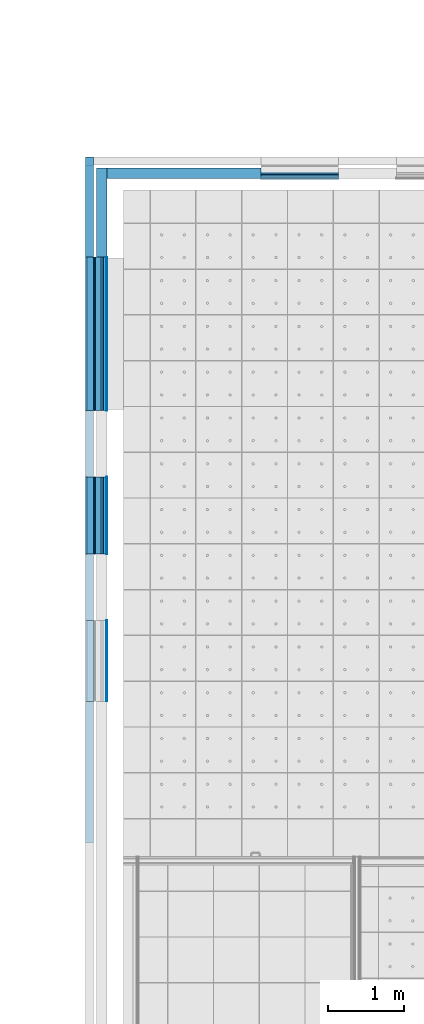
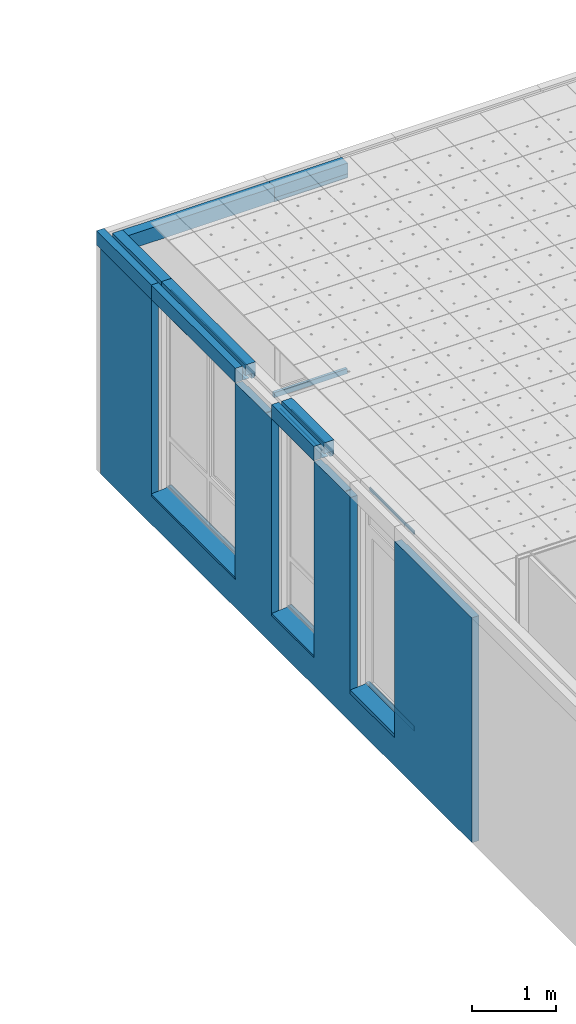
# One storey, part 76 of 338: 29 building element parts, 3 openings, 11 elements without a shape of their own.
"""IFC2X3 building model written with IfcOpenShell, lengths in millimetres."""

from ifc_helpers import new_model, entity, si_unit, converted_unit, derived_unit, money_unit, direction, frame, origin_with_axes, place, context, subcontext, project, spatial, faceted_brep, material, type_object, element, aggregate, save


model = new_model("IFC2X3")

# Units and contexts
model_context = context("Model", 3, precision=0.01, world=origin_with_axes(), true_north=direction((0.0, 1.0)))
plan_context = context("Plan", 3, precision=0.01, world=origin_with_axes(), true_north=direction((0.0, 1.0)))
body_context = subcontext(model_context, "Body", "Model", "MODEL_VIEW")
ifc_project = project(units=[si_unit("LENGTHUNIT", "METRE", prefix="MILLI"), si_unit("AREAUNIT", "SQUARE_METRE"), si_unit("VOLUMEUNIT", "CUBIC_METRE"), converted_unit("PLANEANGLEUNIT", "DEGREE", entity("IfcPlaneAngleMeasure", 0.0174532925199), si_unit("PLANEANGLEUNIT", "RADIAN"), dimensions=[0, 0, 0, 0, 0, 0, 0]), money_unit("EUR"), converted_unit("TIMEUNIT", "Year", entity("IfcTimeMeasure", 31556926.0), si_unit("TIMEUNIT", "SECOND"), dimensions=[0, 0, 1, 0, 0, 0, 0]), si_unit("MASSUNIT", "GRAM", prefix="KILO"), si_unit("THERMODYNAMICTEMPERATUREUNIT", "DEGREE_CELSIUS"), si_unit("LUMINOUSINTENSITYUNIT", "LUMEN"), si_unit("ENERGYUNIT", "JOULE", prefix="MEGA"), derived_unit("THERMALCONDUCTANCEUNIT", [(si_unit("POWERUNIT", "WATT"), 1), (si_unit("LENGTHUNIT", "METRE"), -1), (si_unit("THERMODYNAMICTEMPERATUREUNIT", "KELVIN"), -1)]), derived_unit("SPECIFICHEATCAPACITYUNIT", [(si_unit("ENERGYUNIT", "JOULE"), 1), (si_unit("MASSUNIT", "GRAM", prefix="KILO"), -1), (si_unit("THERMODYNAMICTEMPERATUREUNIT", "KELVIN"), -1)]), derived_unit("MASSDENSITYUNIT", [(si_unit("MASSUNIT", "GRAM", prefix="KILO"), 1), (si_unit("VOLUMEUNIT", "CUBIC_METRE"), -1)])], contexts=[model_context, plan_context])

# Site, building, storey
site_placement = place(None, origin_with_axes())
site = spatial("IfcSite", under=ifc_project, at=site_placement, Name="Fortuinstraat Woensdrecht", CompositionType="ELEMENT")
building_placement = place(site_placement, origin_with_axes())
building = spatial("IfcBuilding", under=site, at=building_placement, Name="IKC Fortuna", CompositionType="ELEMENT")
storey_placement = place(building_placement, origin_with_axes())
storey = spatial("IfcBuildingStorey", under=building, at=storey_placement, Name="00 begane grond", CompositionType="ELEMENT", Elevation=0.0)

# Wall, openings, building element part
wall_type = type_object("IfcWallType", Name="21 MW accent 280", PredefinedType="NOTDEFINED")
wall_placement = place(storey_placement, frame((13595.4349765, 26791.5057441, -485.0), z_axis=(0.0, 0.0, 1.0), x_axis=(0.0, 1.0, 0.0)))
wall = element("IfcWall", 1, at=wall_placement, inside=storey, type_object=wall_type, Name="21_Wand_Baksteen")
opening_1_placement = place(wall_placement, frame((6669.79086492, 0.0, 469.0), z_axis=(0.0, 0.0, 1.0), x_axis=(1.0, 0.0, 0.0)))
element("IfcOpeningElement", 2, at=opening_1_placement, cuts=wall, Name="31_Raam_A.01b", context=body_context, shape_type="Brep", body=[
    faceted_brep([(1005.0, 72.0, 2816.0), (1005.0, 72.0, -59.0), (1005.0, 560.0, -59.0), (1005.0, 560.0, 2816.0), (-1005.0, 72.0, 2816.0), (-1005.0, 72.0, -59.0), (-1005.0, 560.0, -59.0), (-1005.0, 560.0, 2816.0)], [[[0, 1, 2, 3]], [[0, 4, 5, 1]], [[1, 5, 6, 2]], [[3, 2, 6, 7]], [[4, 0, 3, 7]], [[5, 4, 7, 6]]]),
    faceted_brep([(1005.0, 72.0, -59.0), (1005.0, 72.0, 2816.0), (1005.0, -280.0, 2816.0), (1005.0, -280.0, -59.0), (-1005.0, 72.0, -59.0), (-1005.0, 72.0, 2816.0), (-1005.0, -280.0, 2816.0), (-1005.0, -280.0, -59.0)], [[[0, 1, 2, 3]], [[0, 4, 5, 1]], [[1, 5, 6, 2]], [[3, 2, 6, 7]], [[4, 0, 3, 7]], [[5, 4, 7, 6]]]),
])
opening_2_placement = place(wall_placement, frame((4289.79084431, 0.0, 469.0), z_axis=(0.0, 0.0, 1.0), x_axis=(1.0, 0.0, 0.0)))
element("IfcOpeningElement", 3, at=opening_2_placement, cuts=wall, Name="31_Raam_A.03a", context=body_context, shape_type="Brep", body=[
    faceted_brep([(505.0, 72.0, 2816.0), (505.0, 72.0, -59.0), (505.0, 560.0, -59.0), (505.0, 560.0, 2816.0), (-505.0, 72.0, 2816.0), (-505.0, 72.0, -59.0), (-505.0, 560.0, -59.0), (-505.0, 560.0, 2816.0)], [[[0, 1, 2, 3]], [[0, 4, 5, 1]], [[1, 5, 6, 2]], [[3, 2, 6, 7]], [[4, 0, 3, 7]], [[5, 4, 7, 6]]]),
    faceted_brep([(505.0, 72.0, -59.0), (505.0, 72.0, 2816.0), (505.0, -280.0, 2816.0), (505.0, -280.0, -59.0), (-505.0, 72.0, -59.0), (-505.0, 72.0, 2816.0), (-505.0, -280.0, 2816.0), (-505.0, -280.0, -59.0)], [[[0, 1, 2, 3]], [[0, 4, 5, 1]], [[1, 5, 6, 2]], [[3, 2, 6, 7]], [[4, 0, 3, 7]], [[5, 4, 7, 6]]]),
])
opening_3_placement = place(wall_placement, frame((2383.79084431, 0.0, 485.0), z_axis=(0.0, 0.0, 1.0), x_axis=(1.0, 0.0, 0.0)))
element("IfcOpeningElement", 4, at=opening_3_placement, cuts=wall, Name="31_Deur_A.04", context=body_context, shape_type="Brep", body=[
    faceted_brep([(-531.0, 560.0, 2800.0), (-531.0, 560.0, -75.0), (-531.0, 72.0, -75.0), (-531.0, 72.0, 2800.0), (531.0, 560.0, 2800.0), (531.0, 560.0, -75.0), (531.0, 72.0, -75.0), (531.0, 72.0, 2800.0)], [[[0, 1, 2, 3]], [[0, 4, 5, 1]], [[1, 5, 6, 2]], [[3, 2, 6, 7]], [[4, 0, 3, 7]], [[5, 4, 7, 6]]]),
    faceted_brep([(-531.0, -280.0, -75.0), (-531.0, -280.0, 2800.0), (-531.0, 72.0, 2800.0), (-531.0, 72.0, -75.0), (531.0, -280.0, -75.0), (531.0, -280.0, 2800.0), (531.0, 72.0, 2800.0), (531.0, 72.0, -75.0)], [[[0, 1, 2, 3]], [[0, 4, 5, 1]], [[1, 5, 6, 2]], [[3, 2, 6, 7]], [[4, 0, 3, 7]], [[5, 4, 7, 6]]]),
])
ifc_material_1 = material(Name="Steen - Baksteen Accent")
building_element_part_1_placement = place(wall_placement, origin_with_axes())
building_element_part_1 = element("IfcBuildingElementPart", 5, at=building_element_part_1_placement, material=ifc_material_1, Name="Steen - Baksteen Accent", context=body_context, shape_type="Brep", body=[
    faceted_brep([(2914.79084431, 270.000000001, 3275.0), (2914.79084431, 180.0, 3275.0), (3052.96862327, 180.0, 3275.0), (3052.96862327, 270.000000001, 3275.0), (2914.79084431, 180.0, 410.0), (2914.79084431, 270.000000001, 3279.0), (2914.79084431, 268.242640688, 3283.24264069), (2914.79084431, 264.000000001, 3285.0), (2914.79084431, 280.0, 3285.0), (2914.79084431, 280.0, 410.0), (1852.79084431, 180.0, 410.0), (1852.79084431, 180.0, 3275.0), (1714.96862327, 180.0, 3275.0), (1714.96862327, 180.0, 3285.0), (0.0, 180.0, 3285.0), (0.0, 180.0, 0.0), (8884.7908842, 180.0, 0.0), (8884.7908842, 180.0, 3285.0), (7812.7908842, 180.0, 3285.0), (7812.7908842, 180.0, 3275.0), (7674.79086492, 180.0, 3275.0), (7674.79086492, 180.0, 410.0), (5664.79086492, 180.0, 410.0), (5664.79086492, 180.0, 3275.0), (5526.7908842, 180.0, 3275.0), (5526.7908842, 180.0, 3285.0), (4945.03685136, 180.0, 3285.0), (4945.03685136, 180.0, 3275.0), (4794.79084431, 180.0, 3275.0), (4794.79084431, 180.0, 410.0), (3784.79084431, 180.0, 410.0), (3784.79084431, 180.0, 3275.0), (3646.96862327, 180.0, 3275.0), (3646.96862327, 180.0, 3285.0), (3052.96862327, 180.0, 3285.0), (3052.96862327, 270.000000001, 3279.0), (3052.96862327, 192.000000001, 3285.0), (3052.96862327, 264.000000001, 3285.0), (3052.96862327, 268.242640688, 3283.24264069), (3646.96862327, 192.000000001, 3285.0), (3646.96862327, 264.000000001, 3285.0), (3784.79084431, 264.000000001, 3285.0), (3784.79084431, 280.0, 3285.0), (3784.79084431, 280.0, 410.0), (4794.79084431, 280.0, 410.0), (4794.79084431, 280.0, 3285.0), (5664.79086492, 280.0, 3285.0), (5664.79086492, 280.0, 410.0), (7674.79086492, 280.0, 410.0), (7674.79086492, 280.0, 3285.0), (8884.7908842, 280.0, 3285.0), (8884.7908842, 280.0, 0.0), (0.0, 280.0, 0.0), (0.0, 280.0, 3285.0), (1852.79084431, 280.0, 3285.0), (1852.79084431, 280.0, 410.0), (1852.79084431, 270.000000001, 3275.0), (1852.79084431, 264.000000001, 3285.0), (1852.79084431, 268.242640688, 3283.24264069), (1852.79084431, 270.000000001, 3279.0), (1714.96862327, 270.000000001, 3275.0), (1714.96862327, 268.242640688, 3283.24264069), (1714.96862327, 264.000000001, 3285.0), (1714.96862327, 192.000000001, 3285.0), (1714.96862327, 270.000000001, 3279.0), (7674.79086492, 264.000000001, 3285.0), (7812.7908842, 264.000000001, 3285.0), (7812.7908842, 192.000000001, 3285.0), (7812.7908842, 270.000000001, 3279.0), (7812.7908842, 270.000000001, 3275.0), (7812.7908842, 268.242640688, 3283.24264069), (7674.79086492, 270.000000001, 3275.0), (7674.79086492, 270.000000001, 3279.0), (7674.79086492, 268.242640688, 3283.24264069), (5664.79086492, 264.000000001, 3285.0), (5664.79086492, 268.242640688, 3283.24264069), (5664.79086492, 270.000000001, 3279.0), (5664.79086492, 270.000000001, 3275.0), (5526.7908842, 270.000000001, 3275.0), (5526.7908842, 268.242640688, 3283.24264069), (5526.7908842, 264.000000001, 3285.0), (5526.7908842, 192.000000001, 3285.0), (5526.7908842, 270.000000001, 3279.0), (4794.79084431, 264.000000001, 3285.0), (4945.03685136, 264.000000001, 3285.0), (4945.03685136, 192.000000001, 3285.0), (4945.03685136, 270.000000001, 3279.0), (4945.03685136, 270.000000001, 3275.0), (4945.03685136, 268.242640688, 3283.24264069), (4794.79084431, 270.000000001, 3275.0), (4794.79084431, 270.000000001, 3279.0), (4794.79084431, 268.242640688, 3283.24264069), (3784.79084431, 268.242640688, 3283.24264069), (3784.79084431, 270.000000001, 3279.0), (3784.79084431, 270.000000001, 3275.0), (3646.96862327, 270.000000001, 3275.0), (3646.96862327, 268.242640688, 3283.24264069), (3646.96862327, 270.000000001, 3279.0)], [[[0, 1, 2, 3]], [[4, 1, 0, 5, 6, 7, 8, 9]], [[10, 11, 12, 13, 14, 15, 16, 17, 18, 19, 20, 21, 22, 23, 24, 25, 26, 27, 28, 29, 30, 31, 32, 33, 34, 2, 1, 4]], [[35, 3, 2, 34, 36, 37, 38]], [[5, 0, 3, 35]], [[6, 5, 35, 38]], [[7, 6, 38, 37]], [[8, 7, 37, 36, 34, 33, 39, 40, 41, 42]], [[9, 8, 42, 43, 44, 45, 46, 47, 48, 49, 50, 51, 52, 53, 54, 55]], [[10, 4, 9, 55]], [[56, 11, 10, 55, 54, 57, 58, 59]], [[11, 56, 60, 12]], [[61, 62, 63, 13, 12, 60, 64]], [[57, 54, 53, 14, 13, 63, 62]], [[53, 52, 15, 14]], [[15, 52, 51, 16]], [[16, 51, 50, 17]], [[65, 66, 67, 18, 17, 50, 49]], [[68, 69, 19, 18, 67, 66, 70]], [[19, 69, 71, 20]], [[71, 72, 73, 65, 49, 48, 21, 20]], [[48, 47, 22, 21]], [[22, 47, 46, 74, 75, 76, 77, 23]], [[78, 24, 23, 77]], [[79, 80, 81, 25, 24, 78, 82]], [[80, 74, 46, 45, 83, 84, 85, 26, 25, 81]], [[86, 87, 27, 26, 85, 84, 88]], [[28, 27, 87, 89]], [[83, 45, 44, 29, 28, 89, 90, 91]], [[29, 44, 43, 30]], [[41, 92, 93, 94, 31, 30, 43, 42]], [[94, 95, 32, 31]], [[96, 40, 39, 33, 32, 95, 97]], [[41, 40, 96, 92]], [[58, 57, 62, 61]], [[59, 58, 61, 64]], [[56, 59, 64, 60]], [[70, 66, 65, 73]], [[69, 68, 72, 71]], [[68, 70, 73, 72]], [[80, 79, 75, 74]], [[79, 82, 76, 75]], [[82, 78, 77, 76]], [[91, 88, 84, 83]], [[89, 87, 86, 90]], [[90, 86, 88, 91]], [[92, 96, 97, 93]], [[93, 97, 95, 94]]]),
])
aggregate(wall, [building_element_part_1])

# Covering, building element parts
covering_type_1 = type_object("IfcCoveringType", Name="41 Latei MW rollaag 280 x 227", PredefinedType="NOTDEFINED")
covering_1_placement = place(storey_placement, frame((13455.4349765, 32456.296609, 2800.0), z_axis=(0.0, 0.0, 1.0), x_axis=(0.0, 1.0, 0.0)))
covering_1 = element("IfcCovering", 6, at=covering_1_placement, inside=storey, type_object=covering_type_1, Name="41_Afwerking_Latei + rollaag", PredefinedType="NOTDEFINED")
ifc_material_2 = material(Name="Metaal - Staal C")
building_element_part_2_placement = place(covering_1_placement, origin_with_axes())
building_element_part_2 = element("IfcBuildingElementPart", 7, at=building_element_part_2_placement, material=ifc_material_2, Name="Metaal - Staal C", context=body_context, shape_type="Brep", body=[
    faceted_brep([(0.0, 128.589936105, -2.59580461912), (2010.0, 128.589936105, -2.59580461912), (2010.0, 136.0, -4.07767729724), (0.0, 136.0, -4.07767729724), (2010.0, 130.000000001, -6.00000000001), (0.0, 130.000000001, -6.00000000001), (2010.0, 130.000000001, -6.95689290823), (2010.0, 135.215535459, -8.0), (0.0, 135.215535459, -8.0), (0.0, 130.000000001, -6.95689290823)], [[[0, 1, 2, 3]], [[4, 1, 0, 5]], [[4, 6, 7, 2, 1]], [[3, 2, 7, 8]], [[5, 0, 3, 8, 9]], [[6, 4, 5, 9]], [[6, 9, 8, 7]]]),
    faceted_brep([(2010.0, 30.0000000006, 106.999999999), (2010.0, 30.0000000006, 112.580611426), (2010.0, 20.8284271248, 121.828427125), (2010.0, 18.0000000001, 119.0), (0.0, 30.0000000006, 112.580611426), (0.0, 30.0000000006, 106.999999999), (0.0, 20.8284271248, 121.828427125), (0.0, 18.0000000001, 119.0)], [[[0, 1, 2, 3]], [[4, 1, 0, 5]], [[1, 4, 6, 2]], [[7, 3, 2, 6]], [[5, 0, 3, 7]], [[4, 5, 7, 6]]]),
])
ifc_material_3 = material(Name="Steen - Baksteen Accent Rollaag")
building_element_part_3_placement = place(covering_1_placement, origin_with_axes())
building_element_part_3 = element("IfcBuildingElementPart", 8, at=building_element_part_3_placement, material=ifc_material_3, Name="Steen - Baksteen Accent Rollaag", context=body_context, shape_type="Brep", body=[
    faceted_brep([(0.0, 40.0000000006, 12.0), (2010.0, 40.0000000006, 12.0), (2010.0, 40.0, 210.0), (0.0, 40.0, 210.0), (2010.0, 43.5147186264, 3.51471862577), (0.0, 43.5147186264, 3.51471862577), (2010.0, 52.0000000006, 0.0), (2010.0, 115.609685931, 0.0), (2010.0, 140.0, 0.0), (2010.0, 140.0, 210.0), (0.0, 140.0, 210.0), (0.0, 140.0, 0.0), (0.0, 115.609685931, 0.0), (0.0, 52.0000000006, 0.0)], [[[0, 1, 2, 3]], [[4, 1, 0, 5]], [[4, 6, 7, 8, 9, 2, 1]], [[3, 2, 9, 10]], [[5, 0, 3, 10, 11, 12, 13]], [[6, 4, 5, 13]], [[6, 13, 12, 7]], [[11, 8, 7, 12]], [[10, 9, 8, 11]]]),
])
ifc_material_4 = material(Name="Metaal - Staal AFW")
building_element_part_4_placement = place(covering_1_placement, origin_with_axes())
building_element_part_4 = element("IfcBuildingElementPart", 9, at=building_element_part_4_placement, material=ifc_material_4, Name="Metaal - Staal AFW", context=body_context, shape_type="Brep", body=[
    faceted_brep([(2010.0, 30.0000000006, 0.0), (2010.0, 30.0000000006, 4.0), (2010.0, -58.0, 4.0), (2010.0, -58.0, 0.0), (0.0, 30.0000000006, 4.0), (0.0, 30.0000000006, 0.0), (0.0, -58.0, 4.0), (0.0, -58.0, 0.0)], [[[0, 1, 2, 3]], [[4, 1, 0, 5]], [[1, 4, 6, 2]], [[7, 3, 2, 6]], [[5, 0, 3, 7]], [[4, 5, 7, 6]]]),
])
ifc_material_5 = material(Name="ALG - ISOLATIE")
building_element_part_5_placement = place(covering_1_placement, origin_with_axes())
building_element_part_5 = element("IfcBuildingElementPart", 10, at=building_element_part_5_placement, material=ifc_material_5, Name="ALG - ISOLATIE", context=body_context, shape_type="Brep", body=[
    faceted_brep([(2010.0, -140.0, 53.0), (2010.0, -140.0, 210.0), (0.0, -140.0, 210.0), (0.0, -140.0, 53.0), (2010.0, -83.9999988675, 53.0000013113), (2010.0, 0.0, 53.0), (2010.0, 0.0, 210.0), (0.0, 0.0, 210.0), (0.0, 0.0, 53.0), (0.0, -83.9999988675, 53.0000013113)], [[[0, 1, 2, 3]], [[0, 4, 5, 6, 1]], [[1, 6, 7, 2]], [[3, 2, 7, 8, 9]], [[4, 0, 3, 9]], [[5, 4, 9, 8]], [[6, 5, 8, 7]]]),
])
ifc_material_6 = material(Name="Hout AFW")
building_element_part_6_placement = place(covering_1_placement, origin_with_axes())
building_element_part_6 = element("IfcBuildingElementPart", 11, at=building_element_part_6_placement, material=ifc_material_6, Name="Hout AFW", context=body_context, shape_type="Brep", body=[
    faceted_brep([(2010.0, -127.999998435, 53.0000013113), (2010.0, -83.9999988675, 53.0000013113), (0.0, -83.9999988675, 53.0000013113), (0.0, -127.999998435, 53.0000013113), (2010.0, -127.999998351, -1.28576260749e-07), (2010.0, -127.999998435, -17.0), (2010.0, -83.9999988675, -17.0), (0.0, -83.9999988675, -17.0), (0.0, -127.999998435, -17.0), (0.0, -127.999998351, -1.28576260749e-07)], [[[0, 1, 2, 3]], [[0, 4, 5, 6, 1]], [[1, 6, 7, 2]], [[3, 2, 7, 8, 9]], [[4, 0, 3, 9]], [[5, 4, 9, 8]], [[6, 5, 8, 7]]]),
])
ifc_material_7 = material(Name="Isolatie - PUR gespoten")
building_element_part_7_placement = place(covering_1_placement, origin_with_axes())
building_element_part_7 = element("IfcBuildingElementPart", 12, at=building_element_part_7_placement, material=ifc_material_7, Name="Isolatie - PUR gespoten", context=body_context, shape_type="Brep", body=[
    faceted_brep([(2010.0, -139.999999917, 53.0000002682), (2010.0, -127.999998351, 53.0000013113), (0.0, -127.999998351, 53.0000013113), (0.0, -139.999999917, 53.0000002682), (2010.0, -139.999999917, -1.28576260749e-07), (2010.0, -127.999998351, -1.28576260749e-07), (0.0, -127.999998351, -1.28576260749e-07), (0.0, -139.999999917, -1.28576260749e-07)], [[[0, 1, 2, 3]], [[0, 4, 5, 1]], [[1, 5, 6, 2]], [[3, 2, 6, 7]], [[4, 0, 3, 7]], [[5, 4, 7, 6]]]),
])
aggregate(covering_1, [building_element_part_2, building_element_part_3, building_element_part_4, building_element_part_5, building_element_part_6, building_element_part_7])

covering_type_2 = type_object("IfcCoveringType", Name="41 Rollaag 280 x 210", PredefinedType="NOTDEFINED")
covering_2_placement = place(storey_placement, frame((13455.4349765, 34466.296609, 2800.0), z_axis=(0.0, 0.0, 1.0), x_axis=(0.0, 1.0, 0.0)))
covering_2 = element("IfcCovering", 13, at=covering_2_placement, inside=storey, type_object=covering_type_2, Name="41_Afwerking_Rollaag", PredefinedType="NOTDEFINED")
building_element_part_8_placement = place(covering_2_placement, origin_with_axes())
building_element_part_8 = element("IfcBuildingElementPart", 14, at=building_element_part_8_placement, material=ifc_material_3, Name="Steen - Baksteen Accent Rollaag", context=body_context, shape_type="Brep", body=[
    faceted_brep([(138.000019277, 40.0000000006, 12.0), (138.000019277, 40.0, 0.0), (1310.00001928, 40.0, 0.0), (1310.00001928, 40.0, 210.0), (0.0, 40.0, 210.0), (0.0, 40.0000000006, 12.0), (138.000019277, 43.5147186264, 3.51471862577), (138.000019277, 52.0000000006, 0.0), (0.0, 52.0000000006, 0.0), (0.0, 140.0, 0.0), (1310.00001928, 140.0, 0.0), (1310.00001928, 140.0, 210.0), (0.0, 140.0, 210.0), (0.0, 43.5147186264, 3.51471862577)], [[[0, 1, 2, 3, 4, 5]], [[1, 0, 6, 7]], [[7, 8, 9, 10, 2, 1]], [[10, 11, 3, 2]], [[4, 3, 11, 12]], [[13, 5, 4, 12, 9, 8]], [[0, 5, 13, 6]], [[13, 8, 7, 6]], [[12, 11, 10, 9]]]),
])
building_element_part_9_placement = place(covering_2_placement, origin_with_axes())
building_element_part_9 = element("IfcBuildingElementPart", 15, at=building_element_part_9_placement, material=ifc_material_5, Name="ALG - ISOLATIE", context=body_context, shape_type="Brep", body=[
    faceted_brep([(1170.00001928, -140.0, 0.0), (1170.00001928, -140.0, 210.0), (0.0, -140.0, 210.0), (0.0, -140.0, 0.0), (1170.00001928, 0.0, 210.0), (1170.00001928, 0.0, 0.0), (0.0, 0.0, 210.0), (0.0, 0.0, 0.0)], [[[0, 1, 2, 3]], [[4, 1, 0, 5]], [[1, 4, 6, 2]], [[2, 6, 7, 3]], [[5, 0, 3, 7]], [[4, 5, 7, 6]]]),
])
aggregate(covering_2, [building_element_part_8, building_element_part_9])

# Covering, building element part
covering_3_placement = place(storey_placement, frame((15615.4349765, 35636.2966283, 2800.0), z_axis=(0.0, 0.0, 1.0), x_axis=(-1.0, 0.0, 0.0)))
covering_3 = element("IfcCovering", 16, at=covering_3_placement, inside=storey, type_object=covering_type_2, Name="41_Afwerking_Rollaag", PredefinedType="NOTDEFINED")
building_element_part_10_placement = place(covering_3_placement, origin_with_axes())
building_element_part_10 = element("IfcBuildingElementPart", 17, at=building_element_part_10_placement, material=ifc_material_5, Name="ALG - ISOLATIE", context=body_context, shape_type="Brep", body=[
    faceted_brep([(2020.0, 0.0, 0.0), (2020.0, 0.0, 210.0), (0.0, 0.0, 210.0), (0.0, 0.0, 0.0), (2020.0, 140.0, 210.0), (2020.0, 140.0, 0.0), (0.0, 140.0, 210.0), (0.0, 140.0, 0.0)], [[[0, 1, 2, 3]], [[4, 1, 0, 5]], [[1, 4, 6, 2]], [[7, 3, 2, 6]], [[5, 0, 3, 7]], [[4, 5, 7, 6]]]),
])
aggregate(covering_3, [building_element_part_10])

covering_4_placement = place(storey_placement, frame((13455.4349765, 28644.2965884, 2800.0), z_axis=(0.0, 0.0, 1.0), x_axis=(0.0, 1.0, 0.0)))
covering_4 = element("IfcCovering", 18, at=covering_4_placement, inside=storey, type_object=covering_type_1, Name="41_Afwerking_Latei + rollaag", PredefinedType="NOTDEFINED")
building_element_part_11_placement = place(covering_4_placement, origin_with_axes())
building_element_part_11 = element("IfcBuildingElementPart", 19, at=building_element_part_11_placement, material=ifc_material_7, Name="Isolatie - PUR gespoten", context=body_context, shape_type="Brep", body=[
    faceted_brep([(1062.0, -139.999999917, 53.0000002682), (1062.0, -127.999998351, 53.0000013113), (0.0, -127.999998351, 53.0000013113), (0.0, -139.999999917, 53.0000002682), (1062.0, -139.999999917, -1.28576260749e-07), (1062.0, -127.999998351, -1.28576260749e-07), (0.0, -127.999998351, -1.28576260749e-07), (0.0, -139.999999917, -1.28576260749e-07)], [[[0, 1, 2, 3]], [[0, 4, 5, 1]], [[1, 5, 6, 2]], [[3, 2, 6, 7]], [[4, 0, 3, 7]], [[5, 4, 7, 6]]]),
])
aggregate(covering_4, [building_element_part_11])

# Covering, building element parts
covering_5_placement = place(storey_placement, frame((13455.4349765, 30576.2965884, 2800.0), z_axis=(0.0, 0.0, 1.0), x_axis=(0.0, 1.0, 0.0)))
covering_5 = element("IfcCovering", 20, at=covering_5_placement, inside=storey, type_object=covering_type_1, Name="41_Afwerking_Latei + rollaag", PredefinedType="NOTDEFINED")
building_element_part_12_placement = place(covering_5_placement, origin_with_axes())
building_element_part_12 = element("IfcBuildingElementPart", 21, at=building_element_part_12_placement, material=ifc_material_2, Name="Metaal - Staal C", context=body_context, shape_type="Brep", body=[
    faceted_brep([(0.0, 128.589936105, -2.59580461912), (1010.0, 128.589936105, -2.59580461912), (1010.0, 136.0, -4.07767729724), (0.0, 136.0, -4.07767729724), (1010.0, 130.000000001, -6.00000000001), (0.0, 130.000000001, -6.00000000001), (1010.0, 130.000000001, -6.95689290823), (1010.0, 135.215535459, -8.0), (0.0, 135.215535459, -8.0), (0.0, 130.000000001, -6.95689290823)], [[[0, 1, 2, 3]], [[4, 1, 0, 5]], [[4, 6, 7, 2, 1]], [[3, 2, 7, 8]], [[5, 0, 3, 8, 9]], [[6, 4, 5, 9]], [[6, 9, 8, 7]]]),
    faceted_brep([(1010.0, 30.0000000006, 106.999999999), (1010.0, 30.0000000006, 112.580611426), (1010.0, 20.8284271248, 121.828427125), (1010.0, 18.0000000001, 119.0), (0.0, 30.0000000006, 112.580611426), (0.0, 30.0000000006, 106.999999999), (0.0, 20.8284271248, 121.828427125), (0.0, 18.0000000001, 119.0)], [[[0, 1, 2, 3]], [[4, 1, 0, 5]], [[1, 4, 6, 2]], [[7, 3, 2, 6]], [[5, 0, 3, 7]], [[4, 5, 7, 6]]]),
])
building_element_part_13_placement = place(covering_5_placement, origin_with_axes())
building_element_part_13 = element("IfcBuildingElementPart", 22, at=building_element_part_13_placement, material=ifc_material_3, Name="Steen - Baksteen Accent Rollaag", context=body_context, shape_type="Brep", body=[
    faceted_brep([(0.0, 40.0000000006, 12.0), (1010.0, 40.0000000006, 12.0), (1010.0, 40.0, 210.0), (0.0, 40.0, 210.0), (1010.0, 43.5147186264, 3.51471862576), (0.0, 43.5147186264, 3.51471862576), (1010.0, 52.0000000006, 0.0), (1010.0, 115.609685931, 0.0), (1010.0, 140.0, 0.0), (1010.0, 140.0, 210.0), (0.0, 140.0, 210.0), (0.0, 140.0, 0.0), (0.0, 115.609685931, 0.0), (0.0, 52.0000000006, 0.0)], [[[0, 1, 2, 3]], [[4, 1, 0, 5]], [[4, 6, 7, 8, 9, 2, 1]], [[3, 2, 9, 10]], [[5, 0, 3, 10, 11, 12, 13]], [[6, 4, 5, 13]], [[6, 13, 12, 7]], [[11, 8, 7, 12]], [[10, 9, 8, 11]]]),
])
building_element_part_14_placement = place(covering_5_placement, origin_with_axes())
building_element_part_14 = element("IfcBuildingElementPart", 23, at=building_element_part_14_placement, material=ifc_material_4, Name="Metaal - Staal AFW", context=body_context, shape_type="Brep", body=[
    faceted_brep([(1010.0, 30.0000000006, 0.0), (1010.0, 30.0000000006, 4.0), (1010.0, -58.0, 4.0), (1010.0, -58.0, 0.0), (0.0, 30.0000000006, 4.0), (0.0, 30.0000000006, 0.0), (0.0, -58.0, 4.0), (0.0, -58.0, 0.0)], [[[0, 1, 2, 3]], [[4, 1, 0, 5]], [[1, 4, 6, 2]], [[7, 3, 2, 6]], [[5, 0, 3, 7]], [[4, 5, 7, 6]]]),
])
building_element_part_15_placement = place(covering_5_placement, origin_with_axes())
building_element_part_15 = element("IfcBuildingElementPart", 24, at=building_element_part_15_placement, material=ifc_material_5, Name="ALG - ISOLATIE", context=body_context, shape_type="Brep", body=[
    faceted_brep([(1010.0, -140.0, 53.0), (1010.0, -140.0, 210.0), (0.0, -140.0, 210.0), (0.0, -140.0, 53.0), (1010.0, -83.9999988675, 53.0000013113), (1010.0, 0.0, 53.0), (1010.0, 0.0, 210.0), (0.0, 0.0, 210.0), (0.0, 0.0, 53.0), (0.0, -83.9999988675, 53.0000013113)], [[[0, 1, 2, 3]], [[0, 4, 5, 6, 1]], [[1, 6, 7, 2]], [[3, 2, 7, 8, 9]], [[4, 0, 3, 9]], [[5, 4, 9, 8]], [[6, 5, 8, 7]]]),
])
building_element_part_16_placement = place(covering_5_placement, origin_with_axes())
building_element_part_16 = element("IfcBuildingElementPart", 25, at=building_element_part_16_placement, material=ifc_material_6, Name="Hout AFW", context=body_context, shape_type="Brep", body=[
    faceted_brep([(1010.0, -127.999998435, 53.0000013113), (1010.0, -83.9999988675, 53.0000013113), (0.0, -83.9999988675, 53.0000013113), (0.0, -127.999998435, 53.0000013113), (1010.0, -127.999998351, -1.28576260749e-07), (1010.0, -127.999998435, -17.0), (1010.0, -83.9999988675, -17.0), (0.0, -83.9999988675, -17.0), (0.0, -127.999998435, -17.0), (0.0, -127.999998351, -1.28576260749e-07)], [[[0, 1, 2, 3]], [[0, 4, 5, 6, 1]], [[1, 6, 7, 2]], [[3, 2, 7, 8, 9]], [[4, 0, 3, 9]], [[5, 4, 9, 8]], [[6, 5, 8, 7]]]),
])
building_element_part_17_placement = place(covering_5_placement, origin_with_axes())
building_element_part_17 = element("IfcBuildingElementPart", 26, at=building_element_part_17_placement, material=ifc_material_7, Name="Isolatie - PUR gespoten", context=body_context, shape_type="Brep", body=[
    faceted_brep([(1010.0, -139.999999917, 53.0000002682), (1010.0, -127.999998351, 53.0000013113), (0.0, -127.999998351, 53.0000013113), (0.0, -139.999999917, 53.0000002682), (1010.0, -139.999999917, -1.28576260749e-07), (1010.0, -127.999998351, -1.28576260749e-07), (0.0, -127.999998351, -1.28576260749e-07), (0.0, -139.999999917, -1.28576260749e-07)], [[[0, 1, 2, 3]], [[0, 4, 5, 1]], [[1, 5, 6, 2]], [[3, 2, 6, 7]], [[4, 0, 3, 7]], [[5, 4, 7, 6]]]),
])
aggregate(covering_5, [building_element_part_12, building_element_part_13, building_element_part_14, building_element_part_15, building_element_part_16, building_element_part_17])

covering_6_placement = place(storey_placement, frame((16625.4349765, 35636.2966296, 2800.0), z_axis=(0.0, 0.0, 1.0), x_axis=(-1.0, 0.0, 0.0)))
covering_6 = element("IfcCovering", 27, at=covering_6_placement, inside=storey, type_object=covering_type_1, Name="41_Afwerking_Latei + rollaag", PredefinedType="NOTDEFINED")
building_element_part_18_placement = place(covering_6_placement, origin_with_axes())
building_element_part_18 = element("IfcBuildingElementPart", 28, at=building_element_part_18_placement, material=ifc_material_7, Name="Isolatie - PUR gespoten", context=body_context, shape_type="Brep", body=[
    faceted_brep([(1010.0, 139.999999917, -1.28576260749e-07), (1010.0, 127.999998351, -1.28576260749e-07), (0.0, 127.999998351, -1.28576260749e-07), (0.0, 139.999999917, -1.28576260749e-07), (1010.0, 139.999999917, 53.0000002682), (1010.0, 127.999998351, 53.0000013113), (0.0, 127.999998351, 53.0000013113), (0.0, 139.999999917, 53.0000002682)], [[[0, 1, 2, 3]], [[0, 4, 5, 1]], [[1, 5, 6, 2]], [[3, 2, 6, 7]], [[4, 0, 3, 7]], [[5, 4, 7, 6]]]),
])
building_element_part_19_placement = place(covering_6_placement, origin_with_axes())
building_element_part_19 = element("IfcBuildingElementPart", 29, at=building_element_part_19_placement, material=ifc_material_6, Name="Hout AFW", context=body_context, shape_type="Brep", body=[
    faceted_brep([(1010.0, 127.999998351, -1.28576260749e-07), (1010.0, 127.999998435, -17.0), (0.0, 127.999998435, -17.0), (0.0, 127.999998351, -1.28576260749e-07), (1010.0, 127.999998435, 53.0000013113), (1010.0, 83.9999988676, 53.0000013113), (1010.0, 83.9999988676, -17.0), (0.0, 83.9999988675, -17.0), (0.0, 83.9999988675, 53.0000013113), (0.0, 127.999998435, 53.0000013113)], [[[0, 1, 2, 3]], [[0, 4, 5, 6, 1]], [[1, 6, 7, 2]], [[3, 2, 7, 8, 9]], [[4, 0, 3, 9]], [[5, 4, 9, 8]], [[6, 5, 8, 7]]]),
])
building_element_part_20_placement = place(covering_6_placement, origin_with_axes())
building_element_part_20 = element("IfcBuildingElementPart", 30, at=building_element_part_20_placement, material=ifc_material_5, Name="ALG - ISOLATIE", context=body_context, shape_type="Brep", body=[
    faceted_brep([(1010.0, 83.9999988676, 53.0000013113), (1010.0, 0.0, 53.0), (0.0, 0.0, 53.0), (0.0, 83.9999988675, 53.0000013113), (1010.0, 140.0, 53.0), (1010.0, 140.0, 210.0), (1010.0, 0.0, 210.0), (0.0, 0.0, 210.0), (0.0, 140.0, 210.0), (0.0, 140.0, 53.0)], [[[0, 1, 2, 3]], [[0, 4, 5, 6, 1]], [[1, 6, 7, 2]], [[3, 2, 7, 8, 9]], [[4, 0, 3, 9]], [[5, 4, 9, 8]], [[6, 5, 8, 7]]]),
])
aggregate(covering_6, [building_element_part_18, building_element_part_19, building_element_part_20])

# Covering, building element part
covering_type_3 = type_object("IfcCoveringType", Name="41 dorpel aan peil 280 x 75", PredefinedType="NOTDEFINED")
covering_7_placement = place(storey_placement, frame((15615.4349765, 35636.2963468, -2.5), z_axis=(0.0, 0.0, 1.0), x_axis=(1.0, 0.0, 0.0)))
covering_7 = element("IfcCovering", 31, at=covering_7_placement, inside=storey, type_object=covering_type_3, Name="41_Afwerking_Waterslag", PredefinedType="NOTDEFINED")
building_element_part_21_placement = place(covering_7_placement, origin_with_axes())
building_element_part_21 = element("IfcBuildingElementPart", 32, at=building_element_part_21_placement, material=ifc_material_6, Name="Hout AFW", context=body_context, shape_type="Brep", body=[
    faceted_brep([(1010.0, -92.0000008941, 2.49999865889), (1010.0, -92.0000008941, -72.5), (0.0, -92.0000008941, -72.5), (0.0, -92.0000008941, 2.49999865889), (1010.0, -130.0, 2.49999865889), (1010.0, -130.0, -72.5), (0.0, -130.0, -72.5), (0.0, -130.0, 2.49999865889)], [[[0, 1, 2, 3]], [[0, 4, 5, 1]], [[1, 5, 6, 2]], [[3, 2, 6, 7]], [[4, 0, 3, 7]], [[5, 4, 7, 6]]]),
])
aggregate(covering_7, [building_element_part_21])

# Covering, building element parts
covering_8_placement = place(storey_placement, frame((13455.4352551, 32456.296609, -2.5), z_axis=(0.0, 0.0, 1.0), x_axis=(0.0, 1.0, 0.0)))
covering_8 = element("IfcCovering", 33, at=covering_8_placement, inside=storey, type_object=covering_type_3, Name="41_Afwerking_Waterslag", PredefinedType="NOTDEFINED")
ifc_material_8 = material(Name="Steen - Kunststeen")
building_element_part_22_placement = place(covering_8_placement, origin_with_axes())
building_element_part_22 = element("IfcBuildingElementPart", 34, at=building_element_part_22_placement, material=ifc_material_8, Name="Steen - Kunststeen", context=body_context, shape_type="Brep", body=[
    faceted_brep([(2010.0, 140.0, -39.7722078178), (2010.0, 140.0, -72.5), (0.0, 140.0, -72.5), (0.0, 140.0, -39.7722078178), (2010.0, -82.0, -19.5865456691), (2010.0, -82.0, 2.5), (2010.0, -92.0, 2.5), (2010.0, -92.0, -72.5), (0.0, -92.0, -72.5), (0.0, -92.0, 2.5), (0.0, -82.0, 2.5), (0.0, -82.0, -19.5865456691)], [[[0, 1, 2, 3]], [[0, 4, 5, 6, 7, 1]], [[1, 7, 8, 2]], [[3, 2, 8, 9, 10, 11]], [[4, 0, 3, 11]], [[5, 4, 11, 10]], [[6, 5, 10, 9]], [[7, 6, 9, 8]]]),
])
building_element_part_23_placement = place(covering_8_placement, origin_with_axes())
building_element_part_23 = element("IfcBuildingElementPart", 35, at=building_element_part_23_placement, material=ifc_material_6, Name="Hout AFW", context=body_context, shape_type="Brep", body=[
    faceted_brep([(2010.0, -92.0000008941, 2.49999865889), (2010.0, -92.0000008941, -72.5), (0.0, -92.0000008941, -72.5), (0.0, -92.0000008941, 2.49999865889), (2010.0, -130.0, 2.49999865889), (2010.0, -130.0, -72.5), (0.0, -130.0, -72.5), (0.0, -130.0, 2.49999865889)], [[[0, 1, 2, 3]], [[0, 4, 5, 1]], [[1, 5, 6, 2]], [[3, 2, 6, 7]], [[4, 0, 3, 7]], [[5, 4, 7, 6]]]),
])
building_element_part_24_placement = place(covering_8_placement, origin_with_axes())
building_element_part_24 = element("IfcBuildingElementPart", 36, at=building_element_part_24_placement, material=ifc_material_7, Name="Isolatie - PUR gespoten", context=body_context, shape_type="Brep", body=[
    faceted_brep([(2010.0, -129.999999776, -72.5), (2010.0, -139.999999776, -72.5), (0.0, -139.999999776, -72.5), (0.0, -129.999999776, -72.5), (2010.0, -129.999999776, 2.49999888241), (2010.0, -139.999999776, 2.5), (0.0, -139.999999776, 2.5), (0.0, -129.999999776, 2.49999888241)], [[[0, 1, 2, 3]], [[0, 4, 5, 1]], [[1, 5, 6, 2]], [[3, 2, 6, 7]], [[4, 0, 3, 7]], [[5, 4, 7, 6]]]),
])
aggregate(covering_8, [building_element_part_22, building_element_part_23, building_element_part_24])

covering_9_placement = place(storey_placement, frame((13455.435258, 30576.2965884, -2.5), z_axis=(0.0, 0.0, 1.0), x_axis=(0.0, 1.0, 0.0)))
covering_9 = element("IfcCovering", 37, at=covering_9_placement, inside=storey, type_object=covering_type_3, Name="41_Afwerking_Waterslag", PredefinedType="NOTDEFINED")
building_element_part_25_placement = place(covering_9_placement, origin_with_axes())
building_element_part_25 = element("IfcBuildingElementPart", 38, at=building_element_part_25_placement, material=ifc_material_8, Name="Steen - Kunststeen", context=body_context, shape_type="Brep", body=[
    faceted_brep([(1010.0, 140.0, -39.7722078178), (1010.0, 140.0, -72.5), (0.0, 140.0, -72.5), (0.0, 140.0, -39.7722078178), (1010.0, -82.0, -19.5865456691), (1010.0, -82.0, 2.5), (1010.0, -92.0, 2.5), (1010.0, -92.0, -72.5), (0.0, -92.0, -72.5), (0.0, -92.0, 2.5), (0.0, -82.0, 2.5), (0.0, -82.0, -19.5865456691)], [[[0, 1, 2, 3]], [[0, 4, 5, 6, 7, 1]], [[1, 7, 8, 2]], [[3, 2, 8, 9, 10, 11]], [[4, 0, 3, 11]], [[5, 4, 11, 10]], [[6, 5, 10, 9]], [[7, 6, 9, 8]]]),
])
building_element_part_26_placement = place(covering_9_placement, origin_with_axes())
building_element_part_26 = element("IfcBuildingElementPart", 39, at=building_element_part_26_placement, material=ifc_material_6, Name="Hout AFW", context=body_context, shape_type="Brep", body=[
    faceted_brep([(1010.0, -92.0000008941, 2.49999865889), (1010.0, -92.0000008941, -72.5), (0.0, -92.0000008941, -72.5), (0.0, -92.0000008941, 2.49999865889), (1010.0, -130.0, 2.49999865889), (1010.0, -130.0, -72.5), (0.0, -130.0, -72.5), (0.0, -130.0, 2.49999865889)], [[[0, 1, 2, 3]], [[0, 4, 5, 1]], [[1, 5, 6, 2]], [[3, 2, 6, 7]], [[4, 0, 3, 7]], [[5, 4, 7, 6]]]),
])
building_element_part_27_placement = place(covering_9_placement, origin_with_axes())
building_element_part_27 = element("IfcBuildingElementPart", 40, at=building_element_part_27_placement, material=ifc_material_7, Name="Isolatie - PUR gespoten", context=body_context, shape_type="Brep", body=[
    faceted_brep([(1010.0, -129.999999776, -72.5), (1010.0, -139.999999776, -72.5), (0.0, -139.999999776, -72.5), (0.0, -129.999999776, -72.5), (1010.0, -129.999999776, 2.49999888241), (1010.0, -139.999999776, 2.5), (0.0, -139.999999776, 2.5), (0.0, -129.999999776, 2.49999888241)], [[[0, 1, 2, 3]], [[0, 4, 5, 1]], [[1, 5, 6, 2]], [[3, 2, 6, 7]], [[4, 0, 3, 7]], [[5, 4, 7, 6]]]),
])
aggregate(covering_9, [building_element_part_25, building_element_part_26, building_element_part_27])

covering_type_4 = type_object("IfcCoveringType", Name="41 dorpel d bi 280 x 95", PredefinedType="NOTDEFINED")
covering_10_placement = place(storey_placement, frame((13455.435258, 28644.2965884, -2.5), z_axis=(0.0, 0.0, 1.0), x_axis=(0.0, 1.0, 0.0)))
covering_10 = element("IfcCovering", 41, at=covering_10_placement, inside=storey, type_object=covering_type_4, Name="41_Afwerking_Waterslag", PredefinedType="NOTDEFINED")
building_element_part_28_placement = place(covering_10_placement, origin_with_axes())
building_element_part_28 = element("IfcBuildingElementPart", 42, at=building_element_part_28_placement, material=ifc_material_8, Name="Steen - Kunststeen", context=body_context, shape_type="Brep", body=[
    faceted_brep([(1062.0, 140.0, -17.1401037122), (1062.0, 140.0, -72.5), (0.0, 140.0, -72.5), (0.0, 140.0, -17.1401037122), (1062.0, -76.0, 2.5), (1062.0, -76.0, 22.5), (1062.0, -130.0, 22.5), (1062.0, -129.999999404, 2.49999821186), (1062.0, -130.0, -72.5), (0.0, -130.0, -72.5), (0.0, -129.999999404, 2.49999821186), (0.0, -130.0, 22.5), (0.0, -76.0, 22.5), (0.0, -76.0, 2.5)], [[[0, 1, 2, 3]], [[0, 4, 5, 6, 7, 8, 1]], [[1, 8, 9, 2]], [[3, 2, 9, 10, 11, 12, 13]], [[4, 0, 3, 13]], [[5, 4, 13, 12]], [[6, 5, 12, 11]], [[7, 6, 11, 10]], [[8, 7, 10, 9]]]),
])
building_element_part_29_placement = place(covering_10_placement, origin_with_axes())
building_element_part_29 = element("IfcBuildingElementPart", 43, at=building_element_part_29_placement, material=ifc_material_7, Name="Isolatie - PUR gespoten", context=body_context, shape_type="Brep", body=[
    faceted_brep([(1062.0, -140.0, 2.49999821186), (1062.0, -129.999999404, 2.49999821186), (0.0, -129.999999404, 2.49999821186), (0.0, -140.0, 2.49999821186), (1062.0, -140.0, -72.5), (1062.0, -129.999999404, -72.5), (0.0, -129.999999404, -72.5), (0.0, -140.0, -72.5)], [[[0, 1, 2, 3]], [[0, 4, 5, 1]], [[1, 5, 6, 2]], [[3, 2, 6, 7]], [[4, 0, 3, 7]], [[5, 4, 7, 6]]]),
])
aggregate(covering_10, [building_element_part_28, building_element_part_29])

save(model, "model.ifc")
